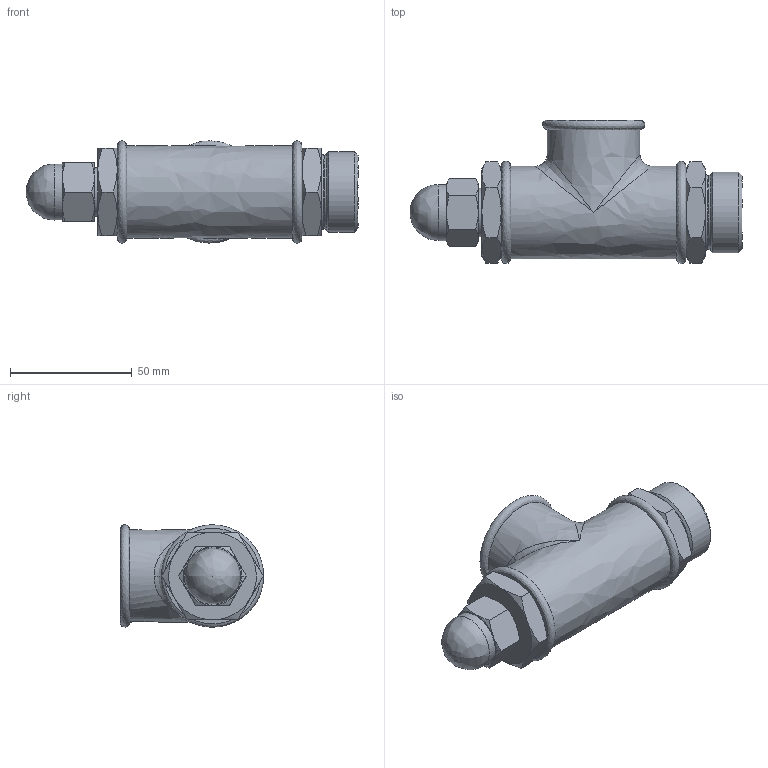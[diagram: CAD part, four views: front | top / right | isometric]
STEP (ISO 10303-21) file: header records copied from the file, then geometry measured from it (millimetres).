
FILE_DESCRIPTION((''),'2;1');
FILE_NAME('U:\Users\r.stiegele\14950600_EC330130.stp', '2013-10-11T15:03:08',('User'),('SDRC'),'I-DEAS Master Series 9','UNIX', 'Yes');
FILE_SCHEMA(('AUTOMOTIVE_DESIGN { 1 0 10303 214 1 1 1 1 }'));
Length unit declared in the file: millimetre
Products named in the file (1): 14950600(327303)
Bounding box: 136.3 x 58.77 x 41.95 mm (x, y, z)
Volume: 135830.8 mm3; surface area: 24098.4 mm2
Topology: 1 solids, 1 shells, 66 faces, 146 edges, 88 vertices
Faces by surface type: bspline 66
Entity records: 2481 total; most frequent: CARTESIAN_POINT 1620, ORIENTED_EDGE 276, EDGE_CURVE 138, VERTEX_POINT 82, EDGE_LOOP 74, FACE_OUTER_BOUND 66, ADVANCED_FACE 66, B_SPLINE_CURVE_WITH_KNOTS 38
